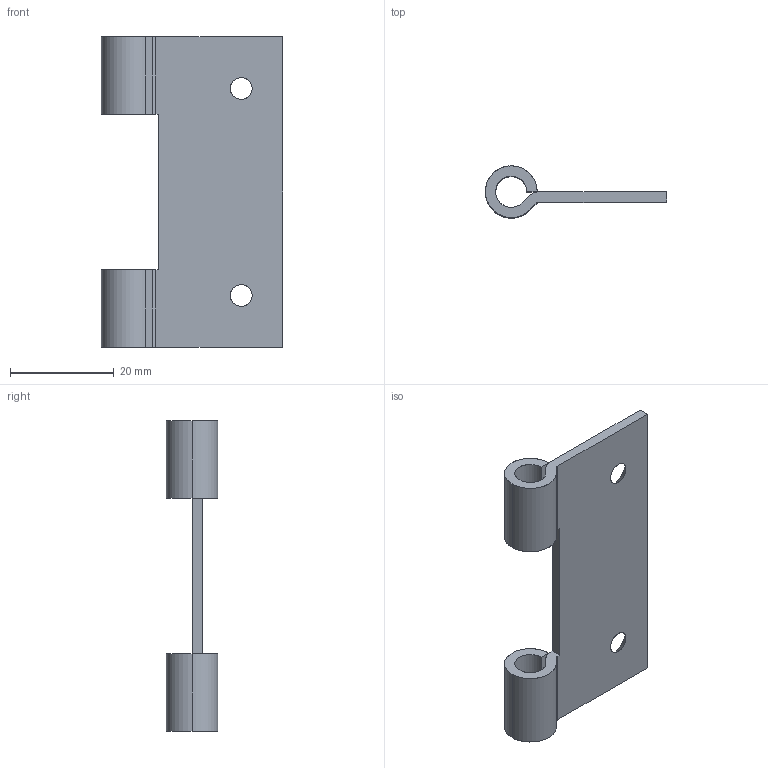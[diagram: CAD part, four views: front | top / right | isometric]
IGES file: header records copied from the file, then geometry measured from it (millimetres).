
Start section: SolidWorks IGES file using analytic representation for surfaces
Global section: file name: Z:\Mes documents\ATAO iges\Gamme CC\CC 485\485 010 010.IGS; native system: SolidWorks 2013; preprocessor: SolidWorks 2013; author: cbrechard; date: 151124.181458; units: millimetre
Bounding box: 35 x 9.99 x 60 mm (x, y, z)
Surface area: 4949.6 mm2 (no closed solid volume)
Topology: 0 solids, 0 shells, 30 faces, 552 edges, 552 vertices
Faces by surface type: revolution 16, bspline 14
